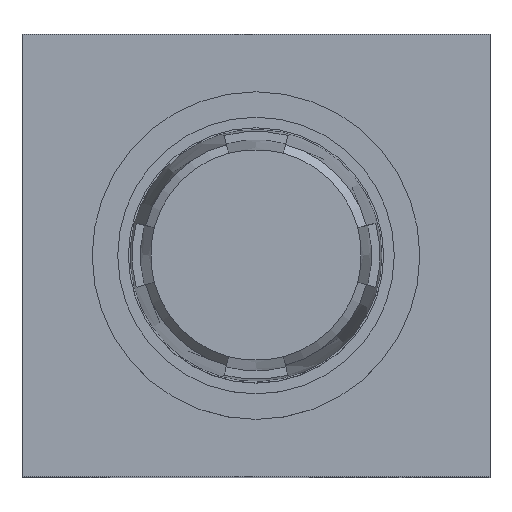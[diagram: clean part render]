
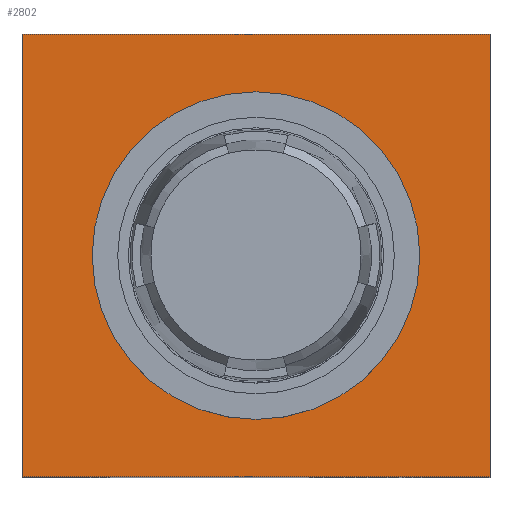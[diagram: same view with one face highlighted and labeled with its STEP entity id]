
A CAD part, top view. The second image highlights one B-rep face of the part: STEP entity #2802.
In plain terms, the highlighted planar face has unit normal (0, 0, 1).
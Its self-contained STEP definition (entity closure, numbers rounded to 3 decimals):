
#1236=CARTESIAN_POINT('',(19.25,0.,51.));
#1237=VERTEX_POINT('',#1236);
#1238=CARTESIAN_POINT('',(0.0,0.0,51.));
#1239=DIRECTION('',(0.0,0.0,-1.0));
#1240=DIRECTION('',(-1.0,0.0,0.0));
#1241=AXIS2_PLACEMENT_3D('',#1238,#1239,#1240);
#1242=CIRCLE('',#1241,19.25);
#1243=EDGE_CURVE('',#1237,#1237,#1242,.T.);
#1775=CARTESIAN_POINT('',(27.5,26.0,51.));
#1776=VERTEX_POINT('',#1775);
#1783=CARTESIAN_POINT('',(27.5,-26.,51.));
#1784=VERTEX_POINT('',#1783);
#1785=CARTESIAN_POINT('',(27.5,26.0,51.));
#1786=DIRECTION('',(0.0,-1.0,0.0));
#1787=VECTOR('',#1786,52.);
#1788=LINE('',#1785,#1787);
#1789=EDGE_CURVE('',#1776,#1784,#1788,.T.);
#2265=CARTESIAN_POINT('',(-27.5,-26.,51.));
#2266=VERTEX_POINT('',#2265);
#2267=CARTESIAN_POINT('',(27.5,-26.,51.));
#2268=DIRECTION('',(-1.0,0.0,0.0));
#2269=VECTOR('',#2268,55.);
#2270=LINE('',#2267,#2269);
#2271=EDGE_CURVE('',#1784,#2266,#2270,.T.);
#2337=CARTESIAN_POINT('',(-27.5,26.0,51.));
#2338=VERTEX_POINT('',#2337);
#2339=CARTESIAN_POINT('',(-27.5,-26.,51.));
#2340=DIRECTION('',(0.0,1.0,0.0));
#2341=VECTOR('',#2340,52.);
#2342=LINE('',#2339,#2341);
#2343=EDGE_CURVE('',#2266,#2338,#2342,.T.);
#2501=CARTESIAN_POINT('',(-27.5,26.0,51.));
#2502=DIRECTION('',(1.0,0.0,0.0));
#2503=VECTOR('',#2502,55.);
#2504=LINE('',#2501,#2503);
#2505=EDGE_CURVE('',#2338,#1776,#2504,.T.);
#2788=CARTESIAN_POINT('',(0.,0.,51.));
#2789=DIRECTION('',(0.0,0.0,1.0));
#2790=DIRECTION('',(1.0,0.0,0.0));
#2791=AXIS2_PLACEMENT_3D('',#2788,#2789,#2790);
#2792=PLANE('',#2791);
#2793=ORIENTED_EDGE('',*,*,#2271,.F.);
#2794=ORIENTED_EDGE('',*,*,#1789,.F.);
#2795=ORIENTED_EDGE('',*,*,#2505,.F.);
#2796=ORIENTED_EDGE('',*,*,#2343,.F.);
#2797=EDGE_LOOP('',(#2793,#2794,#2795,#2796));
#2798=FACE_OUTER_BOUND('',#2797,.T.);
#2799=ORIENTED_EDGE('',*,*,#1243,.T.);
#2800=EDGE_LOOP('',(#2799));
#2801=FACE_BOUND('',#2800,.T.);
#2802=ADVANCED_FACE('',(#2798,#2801),#2792,.T.);
